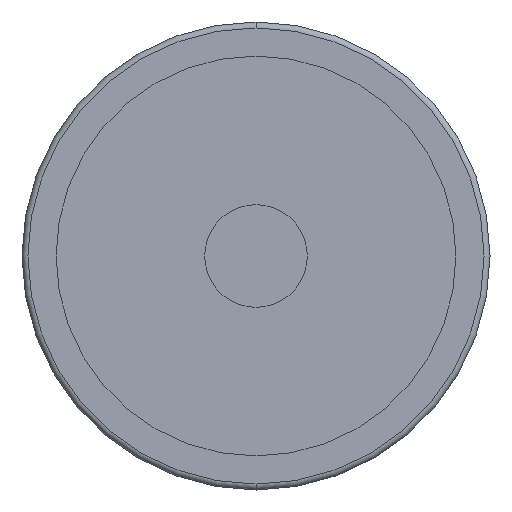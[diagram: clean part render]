
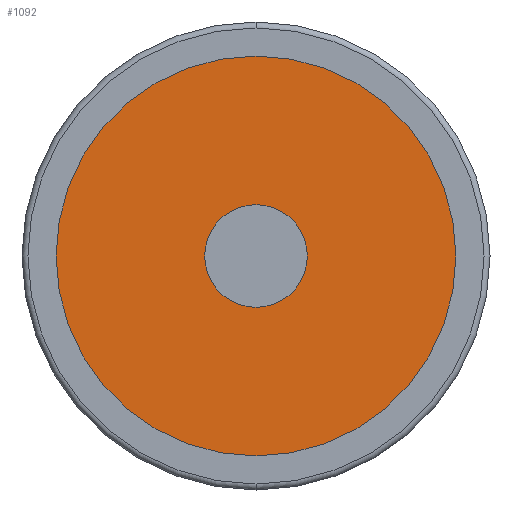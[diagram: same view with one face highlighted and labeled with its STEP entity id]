
A CAD part, front view. The second image highlights one B-rep face of the part: STEP entity #1092.
In plain terms, the highlighted planar face has unit normal (0, -1, 0).
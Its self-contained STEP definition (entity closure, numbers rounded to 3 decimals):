
#49 = ORIENTED_EDGE ( 'NONE', *, *, #85, .F. ) ;
#85 = EDGE_CURVE ( 'NONE', #461, #1820, #167, .T. ) ;
#153 = ORIENTED_EDGE ( 'NONE', *, *, #1824, .T. ) ;
#167 = CIRCLE ( 'NONE', #2141, 8. ) ;
#189 = ORIENTED_EDGE ( 'NONE', *, *, #877, .F. ) ;
#271 = CARTESIAN_POINT ( 'NONE',  ( -34.25, 4.5, 0. ) ) ;
#300 = FACE_OUTER_BOUND ( 'NONE', #1676, .T. ) ;
#323 = CARTESIAN_POINT ( 'NONE',  ( 34.25, 4.5, 0. ) ) ;
#352 = DIRECTION ( 'NONE',  ( 1., 0., 0. ) ) ;
#461 = VERTEX_POINT ( 'NONE', #500 ) ;
#500 = CARTESIAN_POINT ( 'NONE',  ( -8., 4.5, 0. ) ) ;
#508 = DIRECTION ( 'NONE',  ( 1., 0., 0. ) ) ;
#535 = EDGE_LOOP ( 'NONE', ( #189, #49 ) ) ;
#656 = VERTEX_POINT ( 'NONE', #323 ) ;
#676 = CARTESIAN_POINT ( 'NONE',  ( 8., 4.5, 0. ) ) ;
#686 = EDGE_CURVE ( 'NONE', #656, #1478, #1635, .T. ) ;
#724 = AXIS2_PLACEMENT_3D ( 'NONE', #271, #2423, #1433 ) ;
#792 = CIRCLE ( 'NONE', #2190, 8. ) ;
#831 = CIRCLE ( 'NONE', #2151, 34.25 ) ;
#842 = FACE_BOUND ( 'NONE', #535, .T. ) ;
#854 = PLANE ( 'NONE',  #724 ) ;
#877 = EDGE_CURVE ( 'NONE', #1820, #461, #792, .T. ) ;
#1020 = ORIENTED_EDGE ( 'NONE', *, *, #686, .T. ) ;
#1051 = CARTESIAN_POINT ( 'NONE',  ( -34.25, 4.5, 0. ) ) ;
#1092 = ADVANCED_FACE ( 'NONE', ( #300, #842 ), #854, .T. ) ;
#1097 = DIRECTION ( 'NONE',  ( 0., -1., 0. ) ) ;
#1217 = DIRECTION ( 'NONE',  ( 0., -1., 0. ) ) ;
#1244 = DIRECTION ( 'NONE',  ( 1., 0., 0. ) ) ;
#1433 = DIRECTION ( 'NONE',  ( 1., 0., 0. ) ) ;
#1478 = VERTEX_POINT ( 'NONE', #1051 ) ;
#1635 = CIRCLE ( 'NONE', #1708, 34.25 ) ;
#1653 = CARTESIAN_POINT ( 'NONE',  ( 0., 4.5, 0. ) ) ;
#1676 = EDGE_LOOP ( 'NONE', ( #153, #1020 ) ) ;
#1708 = AXIS2_PLACEMENT_3D ( 'NONE', #1807, #1097, #508 ) ;
#1771 = DIRECTION ( 'NONE',  ( 1., 0., 0. ) ) ;
#1806 = CARTESIAN_POINT ( 'NONE',  ( 0., 4.5, 0. ) ) ;
#1807 = CARTESIAN_POINT ( 'NONE',  ( 0., 4.5, 0. ) ) ;
#1820 = VERTEX_POINT ( 'NONE', #676 ) ;
#1824 = EDGE_CURVE ( 'NONE', #1478, #656, #831, .T. ) ;
#1858 = CARTESIAN_POINT ( 'NONE',  ( 0., 4.5, 0. ) ) ;
#2141 = AXIS2_PLACEMENT_3D ( 'NONE', #1806, #1217, #1771 ) ;
#2151 = AXIS2_PLACEMENT_3D ( 'NONE', #1653, #2416, #1244 ) ;
#2190 = AXIS2_PLACEMENT_3D ( 'NONE', #1858, #2287, #352 ) ;
#2287 = DIRECTION ( 'NONE',  ( 0., -1., 0. ) ) ;
#2416 = DIRECTION ( 'NONE',  ( 0., -1., 0. ) ) ;
#2423 = DIRECTION ( 'NONE',  ( 0., -1., 0. ) ) ;
